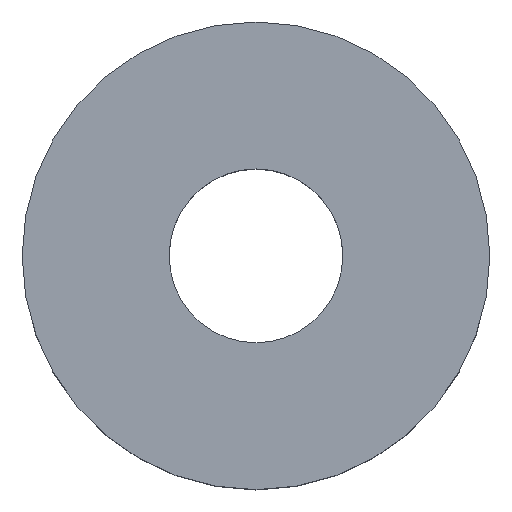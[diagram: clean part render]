
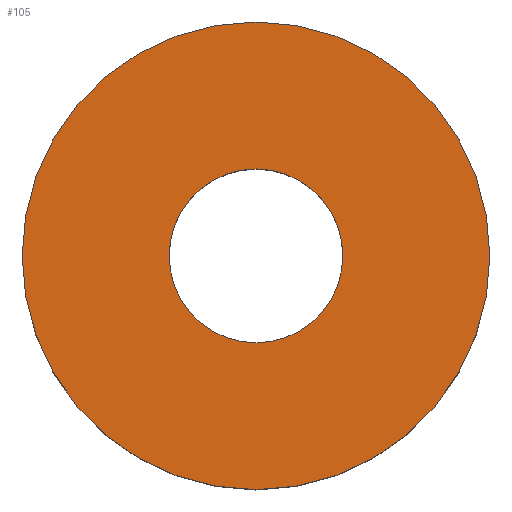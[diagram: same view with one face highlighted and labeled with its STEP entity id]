
A CAD part, top view. The second image highlights one B-rep face of the part: STEP entity #105.
In plain terms, the highlighted planar face has unit normal (0, 0, 1).
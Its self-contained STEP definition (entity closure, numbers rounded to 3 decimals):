
#21 = EDGE_CURVE('',#22,#22,#24,.T.);
#22 = VERTEX_POINT('',#23);
#23 = CARTESIAN_POINT('',(-71.,0.,-34.));
#24 = SURFACE_CURVE('',#25,(#30,#42),.PCURVE_S1.);
#25 = CIRCLE('',#26,14.);
#26 = AXIS2_PLACEMENT_3D('',#27,#28,#29);
#27 = CARTESIAN_POINT('',(-85.,0.,-34.));
#28 = DIRECTION('',(0.,0.,1.));
#29 = DIRECTION('',(1.,0.,-0.));
#30 = PCURVE('',#31,#36);
#31 = CYLINDRICAL_SURFACE('',#32,14.);
#32 = AXIS2_PLACEMENT_3D('',#33,#34,#35);
#33 = CARTESIAN_POINT('',(-85.,0.,-44.));
#34 = DIRECTION('',(0.,0.,1.));
#35 = DIRECTION('',(1.,0.,-0.));
#36 = DEFINITIONAL_REPRESENTATION('',(#37),#41);
#37 = LINE('',#38,#39);
#38 = CARTESIAN_POINT('',(0.,10.));
#39 = VECTOR('',#40,1.);
#40 = DIRECTION('',(1.,0.));
#41 = ( GEOMETRIC_REPRESENTATION_CONTEXT(2) 
PARAMETRIC_REPRESENTATION_CONTEXT() REPRESENTATION_CONTEXT('2D SPACE',''
  ) );
#42 = PCURVE('',#43,#48);
#43 = PLANE('',#44);
#44 = AXIS2_PLACEMENT_3D('',#45,#46,#47);
#45 = CARTESIAN_POINT('',(-85.,0.,-34.));
#46 = DIRECTION('',(0.,0.,1.));
#47 = DIRECTION('',(1.,0.,-0.));
#48 = DEFINITIONAL_REPRESENTATION('',(#49),#53);
#49 = CIRCLE('',#50,14.);
#50 = AXIS2_PLACEMENT_2D('',#51,#52);
#51 = CARTESIAN_POINT('',(0.,0.));
#52 = DIRECTION('',(1.,0.));
#53 = ( GEOMETRIC_REPRESENTATION_CONTEXT(2) 
PARAMETRIC_REPRESENTATION_CONTEXT() REPRESENTATION_CONTEXT('2D SPACE',''
  ) );
#105 = ADVANCED_FACE('',(#106,#109),#43,.T.);
#106 = FACE_BOUND('',#107,.T.);
#107 = EDGE_LOOP('',(#108));
#108 = ORIENTED_EDGE('',*,*,#21,.T.);
#109 = FACE_BOUND('',#110,.T.);
#110 = EDGE_LOOP('',(#111));
#111 = ORIENTED_EDGE('',*,*,#112,.F.);
#112 = EDGE_CURVE('',#113,#113,#115,.T.);
#113 = VERTEX_POINT('',#114);
#114 = CARTESIAN_POINT('',(-79.8,0.,-34.));
#115 = SURFACE_CURVE('',#116,(#121,#128),.PCURVE_S1.);
#116 = CIRCLE('',#117,5.2);
#117 = AXIS2_PLACEMENT_3D('',#118,#119,#120);
#118 = CARTESIAN_POINT('',(-85.,0.,-34.));
#119 = DIRECTION('',(0.,0.,1.));
#120 = DIRECTION('',(1.,0.,-0.));
#121 = PCURVE('',#43,#122);
#122 = DEFINITIONAL_REPRESENTATION('',(#123),#127);
#123 = CIRCLE('',#124,5.2);
#124 = AXIS2_PLACEMENT_2D('',#125,#126);
#125 = CARTESIAN_POINT('',(0.,0.));
#126 = DIRECTION('',(1.,0.));
#127 = ( GEOMETRIC_REPRESENTATION_CONTEXT(2) 
PARAMETRIC_REPRESENTATION_CONTEXT() REPRESENTATION_CONTEXT('2D SPACE',''
  ) );
#128 = PCURVE('',#129,#134);
#129 = CYLINDRICAL_SURFACE('',#130,5.2);
#130 = AXIS2_PLACEMENT_3D('',#131,#132,#133);
#131 = CARTESIAN_POINT('',(-85.,0.,-44.));
#132 = DIRECTION('',(0.,0.,1.));
#133 = DIRECTION('',(1.,0.,-0.));
#134 = DEFINITIONAL_REPRESENTATION('',(#135),#139);
#135 = LINE('',#136,#137);
#136 = CARTESIAN_POINT('',(0.,10.));
#137 = VECTOR('',#138,1.);
#138 = DIRECTION('',(1.,0.));
#139 = ( GEOMETRIC_REPRESENTATION_CONTEXT(2) 
PARAMETRIC_REPRESENTATION_CONTEXT() REPRESENTATION_CONTEXT('2D SPACE',''
  ) );
